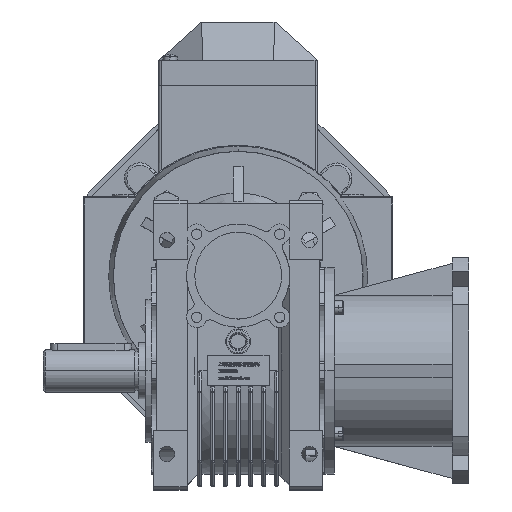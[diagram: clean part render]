
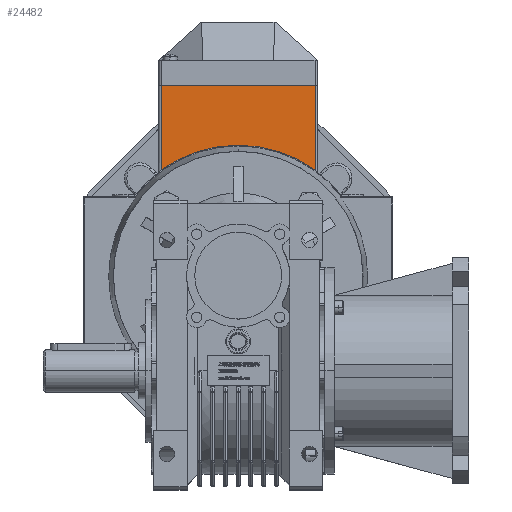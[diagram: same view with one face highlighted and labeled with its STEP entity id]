
A CAD part, top view. The second image highlights one B-rep face of the part: STEP entity #24482.
In plain terms, the highlighted planar face has unit normal (0, 0, 1).
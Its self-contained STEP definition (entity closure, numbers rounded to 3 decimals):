
#857 = VERTEX_POINT ( 'NONE', #4465 ) ;
#2385 = VERTEX_POINT ( 'NONE', #89440 ) ;
#4294 = CARTESIAN_POINT ( 'NONE',  ( 0., 7.35, 0. ) ) ;
#4465 = CARTESIAN_POINT ( 'NONE',  ( -39.834, 33.425, 0. ) ) ;
#5674 = FACE_BOUND ( 'NONE', #34524, .T. ) ;
#6481 = VERTEX_POINT ( 'NONE', #39255 ) ;
#6771 = ORIENTED_EDGE ( 'NONE', *, *, #26102, .T. ) ;
#7967 = DIRECTION ( 'NONE',  ( 0., 1., 0. ) ) ;
#8072 = CIRCLE ( 'NONE', #20839, 52. ) ;
#8736 = DIRECTION ( 'NONE',  ( 0., 0., 1. ) ) ;
#9788 = ORIENTED_EDGE ( 'NONE', *, *, #113933, .T. ) ;
#10130 = VERTEX_POINT ( 'NONE', #71511 ) ;
#10200 = CARTESIAN_POINT ( 'NONE',  ( 39.834, -33.425, 0. ) ) ;
#10269 = CARTESIAN_POINT ( 'NONE',  ( -65., 33.425, 0. ) ) ;
#13025 = AXIS2_PLACEMENT_3D ( 'NONE', #60912, #97955, #7967 ) ;
#13896 = VECTOR ( 'NONE', #106686, 1000. ) ;
#17752 = VECTOR ( 'NONE', #114880, 1000. ) ;
#18013 = ORIENTED_EDGE ( 'NONE', *, *, #105430, .F. ) ;
#19429 = EDGE_CURVE ( 'NONE', #41869, #37763, #81308, .T. ) ;
#20454 = CIRCLE ( 'NONE', #23413, 52. ) ;
#20556 = EDGE_CURVE ( 'NONE', #26458, #32469, #110860, .T. ) ;
#20839 = AXIS2_PLACEMENT_3D ( 'NONE', #66029, #73932, #74332 ) ;
#22292 = CARTESIAN_POINT ( 'NONE',  ( 0., 0., 0. ) ) ;
#22522 = CARTESIAN_POINT ( 'NONE',  ( -33.425, 80.25, 0. ) ) ;
#22677 = CARTESIAN_POINT ( 'NONE',  ( -39.834, -33.425, 0. ) ) ;
#23413 = AXIS2_PLACEMENT_3D ( 'NONE', #35944, #8736, #89650 ) ;
#23822 = CIRCLE ( 'NONE', #96191, 52. ) ;
#24482 = ADVANCED_FACE ( 'NONE', ( #29619, #5674 ), #42448, .T. ) ;
#26102 = EDGE_CURVE ( 'NONE', #108283, #67022, #60439, .T. ) ;
#26457 = VERTEX_POINT ( 'NONE', #116580 ) ;
#26458 = VERTEX_POINT ( 'NONE', #47434 ) ;
#26600 = EDGE_CURVE ( 'NONE', #2385, #857, #99877, .T. ) ;
#27960 = DIRECTION ( 'NONE',  ( 1., 0., 0. ) ) ;
#29619 = FACE_OUTER_BOUND ( 'NONE', #111306, .T. ) ;
#29802 = ORIENTED_EDGE ( 'NONE', *, *, #19429, .T. ) ;
#30419 = CARTESIAN_POINT ( 'NONE',  ( -39.834, 33.425, 0. ) ) ;
#32469 = VERTEX_POINT ( 'NONE', #36437 ) ;
#33983 = EDGE_CURVE ( 'NONE', #6481, #26457, #63323, .T. ) ;
#34454 = CARTESIAN_POINT ( 'NONE',  ( -32.425, 0., 0. ) ) ;
#34524 = EDGE_LOOP ( 'NONE', ( #88681, #6771 ) ) ;
#35078 = ORIENTED_EDGE ( 'NONE', *, *, #61506, .T. ) ;
#35944 = CARTESIAN_POINT ( 'NONE',  ( 0., 0., 0. ) ) ;
#35975 = ORIENTED_EDGE ( 'NONE', *, *, #20556, .T. ) ;
#36437 = CARTESIAN_POINT ( 'NONE',  ( 65., -33.425, 0. ) ) ;
#36710 = EDGE_CURVE ( 'NONE', #10130, #26457, #92407, .T. ) ;
#37763 = VERTEX_POINT ( 'NONE', #60183 ) ;
#39255 = CARTESIAN_POINT ( 'NONE',  ( 32.425, 40.652, 0. ) ) ;
#39646 = EDGE_CURVE ( 'NONE', #90903, #26458, #8072, .T. ) ;
#41869 = VERTEX_POINT ( 'NONE', #45194 ) ;
#42448 = PLANE ( 'NONE',  #76719 ) ;
#43632 = LINE ( 'NONE', #34454, #13896 ) ;
#44744 = ORIENTED_EDGE ( 'NONE', *, *, #99865, .F. ) ;
#45194 = CARTESIAN_POINT ( 'NONE',  ( 65., 33.425, 0. ) ) ;
#47281 = CIRCLE ( 'NONE', #13025, 7.35 ) ;
#47434 = CARTESIAN_POINT ( 'NONE',  ( 39.834, -33.425, 0. ) ) ;
#48887 = VECTOR ( 'NONE', #72118, 1000. ) ;
#50637 = VECTOR ( 'NONE', #60848, 1000. ) ;
#51578 = VECTOR ( 'NONE', #94382, 1000. ) ;
#56929 = ORIENTED_EDGE ( 'NONE', *, *, #33983, .T. ) ;
#58613 = VECTOR ( 'NONE', #27960, 1000. ) ;
#58716 = EDGE_CURVE ( 'NONE', #67022, #108283, #47281, .T. ) ;
#60183 = CARTESIAN_POINT ( 'NONE',  ( 39.834, 33.425, 0. ) ) ;
#60339 = VERTEX_POINT ( 'NONE', #62700 ) ;
#60439 = CIRCLE ( 'NONE', #99482, 7.35 ) ;
#60848 = DIRECTION ( 'NONE',  ( 0., 1., 0. ) ) ;
#60912 = CARTESIAN_POINT ( 'NONE',  ( 0., 0., 0. ) ) ;
#61506 = EDGE_CURVE ( 'NONE', #10130, #60339, #43632, .T. ) ;
#62700 = CARTESIAN_POINT ( 'NONE',  ( -32.425, 40.652, 0. ) ) ;
#63323 = LINE ( 'NONE', #76654, #50637 ) ;
#66029 = CARTESIAN_POINT ( 'NONE',  ( 0., 0., 0. ) ) ;
#67022 = VERTEX_POINT ( 'NONE', #4294 ) ;
#68924 = DIRECTION ( 'NONE',  ( 1., 0., 0. ) ) ;
#70613 = ORIENTED_EDGE ( 'NONE', *, *, #36710, .F. ) ;
#71062 = CARTESIAN_POINT ( 'NONE',  ( 39.834, 33.425, 0. ) ) ;
#71511 = CARTESIAN_POINT ( 'NONE',  ( -32.425, 80.25, 0. ) ) ;
#72118 = DIRECTION ( 'NONE',  ( 0., 1., 0. ) ) ;
#73429 = VECTOR ( 'NONE', #82514, 1000. ) ;
#73932 = DIRECTION ( 'NONE',  ( 0., 0., 1. ) ) ;
#74332 = DIRECTION ( 'NONE',  ( 1., 0., 0. ) ) ;
#74867 = ORIENTED_EDGE ( 'NONE', *, *, #87496, .T. ) ;
#75939 = VECTOR ( 'NONE', #94767, 1000. ) ;
#76028 = DIRECTION ( 'NONE',  ( 0., 1., 0. ) ) ;
#76654 = CARTESIAN_POINT ( 'NONE',  ( 32.425, 0., 0. ) ) ;
#76719 = AXIS2_PLACEMENT_3D ( 'NONE', #79510, #96925, #68924 ) ;
#79510 = CARTESIAN_POINT ( 'NONE',  ( 0., 0., 0. ) ) ;
#81308 = LINE ( 'NONE', #71062, #17752 ) ;
#81912 = VERTEX_POINT ( 'NONE', #96477 ) ;
#82514 = DIRECTION ( 'NONE',  ( 0., 1., 0. ) ) ;
#84369 = EDGE_CURVE ( 'NONE', #37763, #6481, #23822, .T. ) ;
#84640 = ORIENTED_EDGE ( 'NONE', *, *, #26600, .F. ) ;
#85101 = DIRECTION ( 'NONE',  ( -1., 0., 0. ) ) ;
#85480 = DIRECTION ( 'NONE',  ( 0., 0., -1. ) ) ;
#87496 = EDGE_CURVE ( 'NONE', #32469, #41869, #110894, .T. ) ;
#88646 = DIRECTION ( 'NONE',  ( 0., 0., 1. ) ) ;
#88681 = ORIENTED_EDGE ( 'NONE', *, *, #58716, .T. ) ;
#89440 = CARTESIAN_POINT ( 'NONE',  ( -65., 33.425, 0. ) ) ;
#89650 = DIRECTION ( 'NONE',  ( 1., 0., 0. ) ) ;
#90903 = VERTEX_POINT ( 'NONE', #115327 ) ;
#92407 = LINE ( 'NONE', #22522, #51578 ) ;
#94382 = DIRECTION ( 'NONE',  ( 1., 0., 0. ) ) ;
#94767 = DIRECTION ( 'NONE',  ( 1., 0., 0. ) ) ;
#96191 = AXIS2_PLACEMENT_3D ( 'NONE', #106772, #88646, #98113 ) ;
#96477 = CARTESIAN_POINT ( 'NONE',  ( -65., -33.425, 0. ) ) ;
#96925 = DIRECTION ( 'NONE',  ( 0., 0., 1. ) ) ;
#97471 = LINE ( 'NONE', #10269, #73429 ) ;
#97955 = DIRECTION ( 'NONE',  ( 0., 0., -1. ) ) ;
#98113 = DIRECTION ( 'NONE',  ( 1., 0., 0. ) ) ;
#99482 = AXIS2_PLACEMENT_3D ( 'NONE', #22292, #85480, #76028 ) ;
#99865 = EDGE_CURVE ( 'NONE', #90903, #81912, #107136, .T. ) ;
#99877 = LINE ( 'NONE', #30419, #75939 ) ;
#101627 = CARTESIAN_POINT ( 'NONE',  ( 0., -7.35, 0. ) ) ;
#105430 = EDGE_CURVE ( 'NONE', #81912, #2385, #97471, .T. ) ;
#106686 = DIRECTION ( 'NONE',  ( 0., -1., 0. ) ) ;
#106772 = CARTESIAN_POINT ( 'NONE',  ( 0., 0., 0. ) ) ;
#107136 = LINE ( 'NONE', #22677, #111327 ) ;
#108283 = VERTEX_POINT ( 'NONE', #101627 ) ;
#109163 = CARTESIAN_POINT ( 'NONE',  ( 65., 33.425, 0. ) ) ;
#110217 = ORIENTED_EDGE ( 'NONE', *, *, #84369, .T. ) ;
#110860 = LINE ( 'NONE', #10200, #58613 ) ;
#110894 = LINE ( 'NONE', #109163, #48887 ) ;
#111306 = EDGE_LOOP ( 'NONE', ( #70613, #35078, #9788, #84640, #18013, #44744, #113060, #35975, #74867, #29802, #110217, #56929 ) ) ;
#111327 = VECTOR ( 'NONE', #85101, 1000. ) ;
#113060 = ORIENTED_EDGE ( 'NONE', *, *, #39646, .T. ) ;
#113933 = EDGE_CURVE ( 'NONE', #60339, #857, #20454, .T. ) ;
#114880 = DIRECTION ( 'NONE',  ( -1., 0., 0. ) ) ;
#115327 = CARTESIAN_POINT ( 'NONE',  ( -39.834, -33.425, 0. ) ) ;
#116580 = CARTESIAN_POINT ( 'NONE',  ( 32.425, 80.25, 0. ) ) ;
